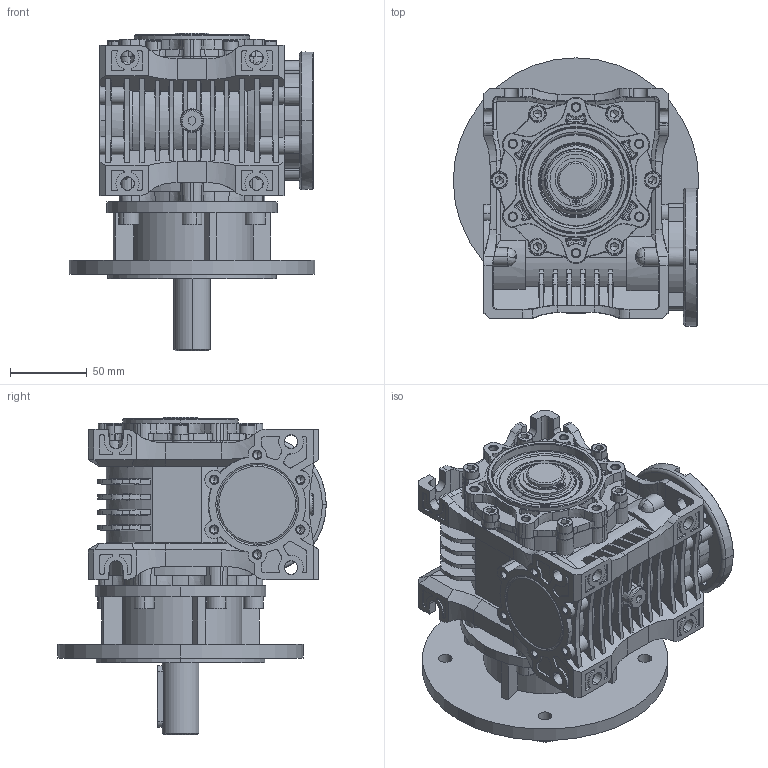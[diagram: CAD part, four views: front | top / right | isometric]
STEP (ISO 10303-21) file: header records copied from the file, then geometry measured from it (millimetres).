
FILE_DESCRIPTION (( 'STEP AP203' ), '1' );
FILE_NAME ('MR-50_90-11-K160_1-WJ_1-3D.STEP', '2024-02-08T10:56:32', ( '' ), ( '' ), 'SwSTEP 2.0', 'SolidWorks 2022', '' );
FILE_SCHEMA (( 'CONFIG_CONTROL_DESIGN' ));
Products named in the file (1): MR-50_90-11-K160_1-WJ_1-3D
Bounding box: 160 x 175 x 207 mm (x, y, z)
Volume: 1486984.7 mm3; surface area: 289317.1 mm2
Topology: 1 solids, 41 shells, 3065 faces, 8066 edges, 5112 vertices
Faces by surface type: plane 1165, cone 921, cylinder 726, torus 156, bspline 97
Entity records: 113405 total; most frequent: CARTESIAN_POINT 38389, ORIENTED_EDGE 15908, DIRECTION 15895, EDGE_CURVE 7954, AXIS2_PLACEMENT_3D 6040, VERTEX_POINT 5112, VECTOR 3815, LINE 3815
